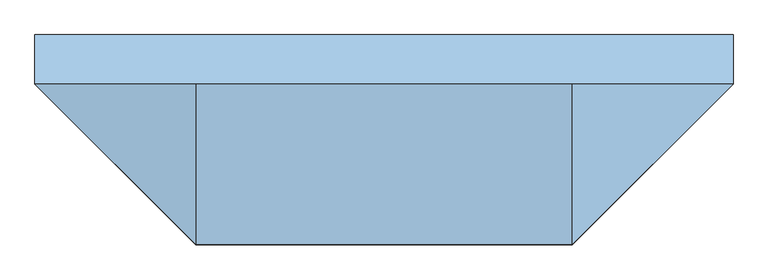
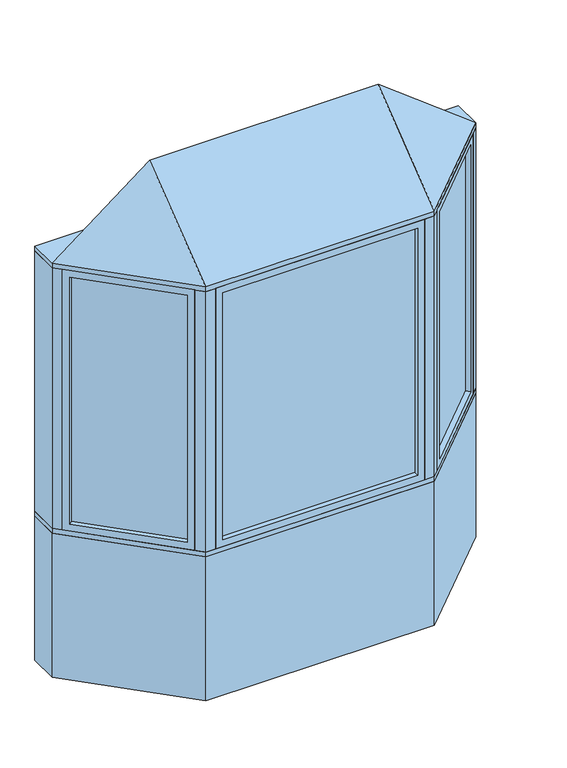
"""IFC4 building model written with IfcOpenShell, lengths in millimetres: window geometry, Pollard_Windows_Tudor Casement Bows and Bays : AML-BAY 45 AFR0614-10-600."""

from ifc_helpers import new_model, si_unit, frame, origin, origin_with_axes, place, context, project, spatial, polyline, outline, extrude, faceted_brep, source, transform, mapped, element, save


def window_12b3202e(model_context):
    return source(origin(), model_context, "Body", "SolidModel", [
        extrude(outline(polyline([(1010.5964271, -104.763169), (614.974814, -500.3847822), (611.3827115, -496.7926797), (1007.0043247, -101.1710666), (1010.5964271, -104.763169)])), frame((0.0, 0.0, 823.1628), z_axis=(0.0, 0.0, 1.0), x_axis=(1.0, 0.0, 0.0)), (0.0, 0.0, 1.0), 1353.6704),
        faceted_brep([(1001.616171, -113.7434252, 835.8628), (1019.5766833, -131.7039374, 835.8628), (1019.5766833, -131.7039374, 2164.1332), (1001.616171, -113.7434252, 2164.1332), (1007.0043247, -101.1710666, 823.1628), (1010.5964271, -104.763169, 823.1628), (1010.5964271, -104.763169, 2176.8332), (1007.0043247, -101.1710666, 2176.8332), (980.0635563, -92.1908105, 835.8628), (998.0240686, -110.1513227, 835.8628), (998.0240686, -110.1513227, 2164.1332), (980.0635563, -92.1908105, 2164.1332), (1044.9369265, -106.3436941, 799.998), (1005.4237996, -66.8305672, 799.998), (1005.4237996, -66.8305672, 2199.998), (1044.9369265, -106.3436941, 2199.998), (641.9155823, -509.3650383, 2164.1332), (623.9550701, -491.4045261, 2164.1332), (614.974814, -500.3847822, 2176.8332), (611.3827115, -496.7926797, 2176.8332), (620.3629677, -487.8124236, 2164.1332), (602.4024554, -469.8519114, 2164.1332), (577.0422121, -495.2121547, 2199.998), (616.5553391, -534.7252816, 2199.998), (641.9155823, -509.3650383, 835.8628), (623.9550701, -491.4045261, 835.8628), (614.974814, -500.3847822, 823.1628), (611.3827115, -496.7926797, 823.1628), (620.3629677, -487.8124236, 835.8628), (602.4024554, -469.8519114, 835.8628), (577.0422121, -495.2121547, 799.998), (616.5553391, -534.7252816, 799.998)], [[[0, 1, 2, 3]], [[4, 5, 6, 7]], [[8, 9, 10, 11]], [[12, 13, 14, 15]], [[3, 2, 16, 17]], [[7, 6, 18, 19]], [[11, 10, 20, 21]], [[15, 14, 22, 23]], [[17, 16, 24, 25]], [[19, 18, 26, 27]], [[21, 20, 28, 29]], [[23, 22, 30, 31]], [[25, 24, 1, 0]], [[5, 26, 18, 6], [3, 17, 25, 0]], [[27, 26, 5, 4]], [[7, 19, 27, 4], [9, 28, 20, 10]], [[29, 28, 9, 8]], [[13, 30, 22, 14], [11, 21, 29, 8]], [[31, 30, 13, 12]], [[15, 23, 31, 12], [1, 24, 16, 2]]]),
        extrude(outline(polyline([(-614.974814, -500.3847822), (-1010.5964271, -104.763169), (-1007.0043247, -101.1710666), (-611.3827115, -496.7926797), (-614.974814, -500.3847822)])), frame((0.0, 0.0, 823.1628), z_axis=(0.0, 0.0, 1.0), x_axis=(1.0, 0.0, 0.0)), (0.0, 0.0, 1.0), 1353.6704),
        faceted_brep([(-620.3629677, -487.8124236, 2164.1332), (-602.4024554, -469.8519114, 2164.1332), (-602.4024554, -469.8519114, 835.8628), (-620.3629677, -487.8124236, 835.8628), (-614.974814, -500.3847822, 2176.8332), (-611.3827115, -496.7926797, 2176.8332), (-611.3827115, -496.7926797, 823.1628), (-614.974814, -500.3847822, 823.1628), (-641.9155823, -509.3650383, 2164.1332), (-623.9550701, -491.4045261, 2164.1332), (-623.9550701, -491.4045261, 835.8628), (-641.9155823, -509.3650383, 835.8628), (-577.0422121, -495.2121547, 2199.998), (-616.5553391, -534.7252816, 2199.998), (-616.5553391, -534.7252816, 799.998), (-577.0422121, -495.2121547, 799.998), (-980.0635563, -92.1908105, 835.8628), (-998.0240686, -110.1513227, 835.8628), (-1007.0043247, -101.1710666, 823.1628), (-1010.5964271, -104.763169, 823.1628), (-1001.616171, -113.7434252, 835.8628), (-1019.5766833, -131.7039374, 835.8628), (-1044.9369265, -106.3436941, 799.998), (-1005.4237996, -66.8305672, 799.998), (-980.0635563, -92.1908105, 2164.1332), (-998.0240686, -110.1513227, 2164.1332), (-1007.0043247, -101.1710666, 2176.8332), (-1010.5964271, -104.763169, 2176.8332), (-1001.616171, -113.7434252, 2164.1332), (-1019.5766833, -131.7039374, 2164.1332), (-1044.9369265, -106.3436941, 2199.998), (-1005.4237996, -66.8305672, 2199.998)], [[[0, 1, 2, 3]], [[4, 5, 6, 7]], [[8, 9, 10, 11]], [[12, 13, 14, 15]], [[3, 2, 16, 17]], [[7, 6, 18, 19]], [[11, 10, 20, 21]], [[15, 14, 22, 23]], [[17, 16, 24, 25]], [[19, 18, 26, 27]], [[21, 20, 28, 29]], [[23, 22, 30, 31]], [[15, 23, 31, 12], [1, 24, 16, 2]], [[25, 24, 1, 0]], [[5, 26, 18, 6], [3, 17, 25, 0]], [[27, 26, 5, 4]], [[7, 19, 27, 4], [9, 28, 20, 10]], [[29, 28, 9, 8]], [[13, 30, 22, 14], [11, 21, 29, 8]], [[31, 30, 13, 12]]]),
        extrude(outline(polyline([(508.0352, -544.6806207), (-508.0352, -544.6806207), (-508.0352, -539.6006207), (508.0352, -539.6006207), (508.0352, -544.6806207)])), frame((0.0, 0.0, 823.1628), z_axis=(0.0, 0.0, 1.0), x_axis=(1.0, 0.0, 0.0)), (0.0, 0.0, 1.0), 1353.6704),
        faceted_brep([(495.3352, -544.6806207, 835.8628), (495.3352, -570.0806207, 835.8628), (495.3352, -570.0806207, 2164.1332), (495.3352, -544.6806207, 2164.1332), (508.0352, -539.6006207, 823.1628), (508.0352, -544.6806207, 823.1628), (508.0352, -544.6806207, 2176.8332), (508.0352, -539.6006207, 2176.8332), (495.3352, -514.2006207, 835.8628), (495.3352, -539.6006207, 835.8628), (495.3352, -539.6006207, 2164.1332), (495.3352, -514.2006207, 2164.1332), (531.2, -570.0806207, 799.998), (531.2, -514.2006207, 799.998), (531.2, -514.2006207, 2199.998), (531.2, -570.0806207, 2199.998), (-495.3352, -570.0806207, 2164.1332), (-495.3352, -544.6806207, 2164.1332), (-508.0352, -544.6806207, 2176.8332), (-508.0352, -539.6006207, 2176.8332), (-495.3352, -539.6006207, 2164.1332), (-495.3352, -514.2006207, 2164.1332), (-531.2, -514.2006207, 2199.998), (-531.2, -570.0806207, 2199.998), (-495.3352, -570.0806207, 835.8628), (-495.3352, -544.6806207, 835.8628), (-508.0352, -544.6806207, 823.1628), (-508.0352, -539.6006207, 823.1628), (-495.3352, -539.6006207, 835.8628), (-495.3352, -514.2006207, 835.8628), (-531.2, -514.2006207, 799.998), (-531.2, -570.0806207, 799.998)], [[[0, 1, 2, 3]], [[4, 5, 6, 7]], [[8, 9, 10, 11]], [[12, 13, 14, 15]], [[3, 2, 16, 17]], [[7, 6, 18, 19]], [[11, 10, 20, 21]], [[15, 14, 22, 23]], [[17, 16, 24, 25]], [[19, 18, 26, 27]], [[21, 20, 28, 29]], [[23, 22, 30, 31]], [[15, 23, 31, 12], [1, 24, 16, 2]], [[25, 24, 1, 0]], [[5, 26, 18, 6], [3, 17, 25, 0]], [[27, 26, 5, 4]], [[7, 19, 27, 4], [9, 28, 20, 10]], [[29, 28, 9, 8]], [[13, 30, 22, 14], [11, 21, 29, 8]], [[31, 30, 13, 12]]]),
        faceted_brep([(1076.5, -74.7806207, 2225.398), (581.2, -570.0806207, 2225.398), (-581.2, -570.0806207, 2225.398), (-1076.5, -74.7806207, 2225.398), (-581.2, -74.7806207, 2606.398), (581.2, -74.7806207, 2606.398)], [[[0, 1, 2, 3]], [[3, 2, 4]], [[2, 1, 5, 4]], [[1, 0, 5]], [[0, 3, 4, 5]]]),
        extrude(outline(polyline([(-1076.5, 77.6193793), (1076.5, 77.6193793), (1076.5, -74.7806207), (581.2, -570.0806207), (-581.2, -570.0806207), (-1076.5, -74.7806207), (-1076.5, 77.6193793)])), frame((0.0, 0.0, 2199.998), z_axis=(0.0, 0.0, 1.0), x_axis=(1.0, 0.0, 0.0)), (0.0, 0.0, 1.0), 25.4),
        extrude(outline(polyline([(-1076.5, -74.7806207), (-1076.5, 77.6193793), (-1013.3738531, 77.6193793), (-1013.3738531, -74.7806207), (-1044.9369265, -106.3436941), (-1076.5, -74.7806207)])), frame((0.0, 0.0, 799.998), z_axis=(0.0, 0.0, 1.0), x_axis=(1.0, 0.0, 0.0)), (0.0, 0.0, 1.0), 1400.0),
        extrude(outline(polyline([(1076.5, 77.6193793), (1076.5, -74.7806207), (1044.9369265, -106.3436941), (1013.3738531, -74.7806207), (1013.3738531, 77.6193793), (1076.5, 77.6193793)])), frame((0.0, 0.0, 799.998), z_axis=(0.0, 0.0, 1.0), x_axis=(1.0, 0.0, 0.0)), (0.0, 0.0, 1.0), 1400.0),
        extrude(outline(polyline([(581.2, -570.0806207), (531.2, -570.0806207), (531.2, -520.0806207), (560.4893219, -520.0806207), (581.2, -499.3699425), (616.5553391, -534.7252816), (581.2, -570.0806207)])), frame((0.0, 0.0, 799.998), z_axis=(0.0, 0.0, 1.0), x_axis=(1.0, 0.0, 0.0)), (0.0, 0.0, 1.0), 1400.0),
        extrude(outline(polyline([(-581.2, -570.0806207), (-616.5553391, -534.7252816), (-581.2, -499.3699425), (-560.4893219, -520.0806207), (-531.2, -520.0806207), (-531.2, -570.0806207), (-581.2, -570.0806207)])), frame((0.0, 0.0, 799.998), z_axis=(0.0, 0.0, 1.0), x_axis=(1.0, 0.0, 0.0)), (0.0, 0.0, 1.0), 1400.0),
        extrude(outline(polyline([(-581.2, -570.0806207), (-1076.5, -74.7806207), (-1076.5, 77.6193793), (-1013.3738531, 77.6193793), (-518.0738531, -417.6806207), (518.0738531, -417.6806207), (1013.3738531, 77.6193793), (1076.5, 77.6193793), (1076.5, -74.7806207), (581.2, -570.0806207), (-581.2, -570.0806207)])), frame((0.0, 0.0, 774.598), z_axis=(0.0, 0.0, 1.0), x_axis=(1.0, 0.0, 0.0)), (0.0, 0.0, 1.0), 25.4),
        extrude(outline(polyline([(-1076.5, -74.7806207), (-1076.5, 77.6193793), (-1013.3738531, 77.6193793), (-518.0738531, -417.6806207), (518.0738531, -417.6806207), (1013.3738531, 77.6193793), (1076.5, 77.6193793), (1076.5, -74.7806207), (581.2, -570.0806207), (-581.2, -570.0806207), (-1076.5, -74.7806207)])), origin_with_axes(), (0.0, 0.0, 1.0), 774.598),
    ])


if __name__ == "__main__":
    model = new_model("IFC4")
    model_context = context("Model", 3, world=origin())
    ifc_project = project(units=[si_unit("LENGTHUNIT", "METRE", prefix="MILLI")], contexts=[model_context])
    site = spatial("IfcSite", under=ifc_project)
    building = spatial("IfcBuilding", under=site)
    placement = place(None, origin())
    window_shape = window_12b3202e(model_context)
    element("IfcWindow", 1, ObjectType="Pollard_Windows_Tudor Casement Bows and Bays : AML-BAY 45 AFR0614-10-600", at=placement, inside=building, context=model_context, shape_type="MappedRepresentation", body=[
        mapped(window_shape, transform((0.0, 0.0, 0.0), x_axis=(1.0, 0.0, 0.0), y_axis=(0.0, 1.0, 0.0), z_axis=(0.0, 0.0, 1.0))),
    ])
    save(model, "model.ifc")
